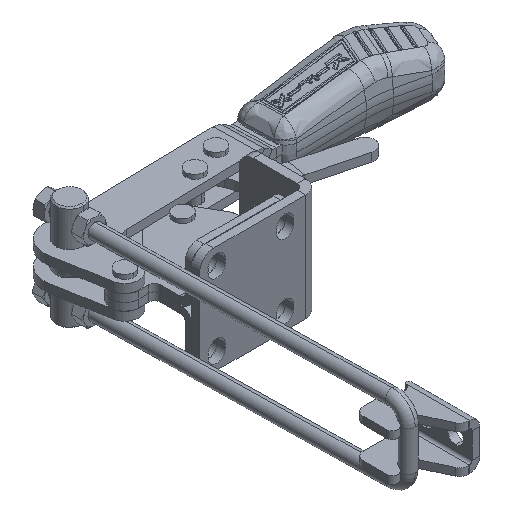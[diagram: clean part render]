
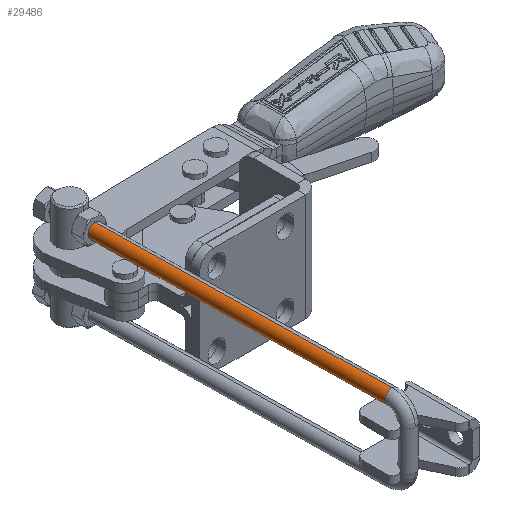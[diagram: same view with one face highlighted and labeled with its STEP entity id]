
A CAD part, isometric view. The second image highlights one B-rep face of the part: STEP entity #29486.
In plain terms, the highlighted cylindrical face has radius 2.5 mm (diameter 5 mm), a partial arc.
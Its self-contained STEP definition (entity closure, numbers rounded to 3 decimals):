
#466 = ORIENTED_EDGE ( 'NONE', *, *, #19539, .T. ) ;
#1099 = CARTESIAN_POINT ( 'NONE',  ( 12.5, 115., 0. ) ) ;
#1450 = DIRECTION ( 'NONE',  ( 0., -1., 0. ) ) ;
#1521 = DIRECTION ( 'NONE',  ( 0., -1., 0. ) ) ;
#1550 = VERTEX_POINT ( 'NONE', #24008 ) ;
#1794 = AXIS2_PLACEMENT_3D ( 'NONE', #30426, #12344, #33418 ) ;
#2011 = EDGE_CURVE ( 'NONE', #1550, #6127, #32524, .T. ) ;
#4139 = DIRECTION ( 'NONE',  ( 0., 0., 1. ) ) ;
#6127 = VERTEX_POINT ( 'NONE', #15175 ) ;
#7068 = VERTEX_POINT ( 'NONE', #26091 ) ;
#7332 = CARTESIAN_POINT ( 'NONE',  ( 12.5, 115., 0. ) ) ;
#7469 = DIRECTION ( 'NONE',  ( 1., 0., 0. ) ) ;
#8087 = CIRCLE ( 'NONE', #1794, 2.5 ) ;
#8460 = VECTOR ( 'NONE', #31749, 1000. ) ;
#8974 = CYLINDRICAL_SURFACE ( 'NONE', #29129, 2.5 ) ;
#12077 = CARTESIAN_POINT ( 'NONE',  ( 10., 115., 0. ) ) ;
#12170 = EDGE_CURVE ( 'NONE', #7068, #24285, #18294, .T. ) ;
#12344 = DIRECTION ( 'NONE',  ( 0., -1., 0. ) ) ;
#13457 = CARTESIAN_POINT ( 'NONE',  ( 15., 115., 0. ) ) ;
#14801 = AXIS2_PLACEMENT_3D ( 'NONE', #1099, #22210, #4139 ) ;
#15008 = EDGE_CURVE ( 'NONE', #6127, #24285, #8087, .T. ) ;
#15175 = CARTESIAN_POINT ( 'NONE',  ( 10., 0., 0. ) ) ;
#15331 = ORIENTED_EDGE ( 'NONE', *, *, #2011, .F. ) ;
#17489 = EDGE_LOOP ( 'NONE', ( #15331, #466, #19448, #39052 ) ) ;
#18294 = LINE ( 'NONE', #13457, #33366 ) ;
#19448 = ORIENTED_EDGE ( 'NONE', *, *, #12170, .T. ) ;
#19539 = EDGE_CURVE ( 'NONE', #1550, #7068, #20655, .T. ) ;
#20655 = CIRCLE ( 'NONE', #14801, 2.5 ) ;
#22210 = DIRECTION ( 'NONE',  ( 0., -1., 0. ) ) ;
#24008 = CARTESIAN_POINT ( 'NONE',  ( 10., 115., 0. ) ) ;
#24285 = VERTEX_POINT ( 'NONE', #34154 ) ;
#25046 = FACE_OUTER_BOUND ( 'NONE', #17489, .T. ) ;
#26091 = CARTESIAN_POINT ( 'NONE',  ( 15., 115., 0. ) ) ;
#29129 = AXIS2_PLACEMENT_3D ( 'NONE', #7332, #1521, #7469 ) ;
#29486 = ADVANCED_FACE ( 'NONE', ( #25046 ), #8974, .T. ) ;
#30426 = CARTESIAN_POINT ( 'NONE',  ( 12.5, 0., 0. ) ) ;
#31749 = DIRECTION ( 'NONE',  ( 0., -1., 0. ) ) ;
#32524 = LINE ( 'NONE', #12077, #8460 ) ;
#33366 = VECTOR ( 'NONE', #1450, 1000. ) ;
#33418 = DIRECTION ( 'NONE',  ( 0., 0., 1. ) ) ;
#34154 = CARTESIAN_POINT ( 'NONE',  ( 15., 0., 0. ) ) ;
#39052 = ORIENTED_EDGE ( 'NONE', *, *, #15008, .F. ) ;
